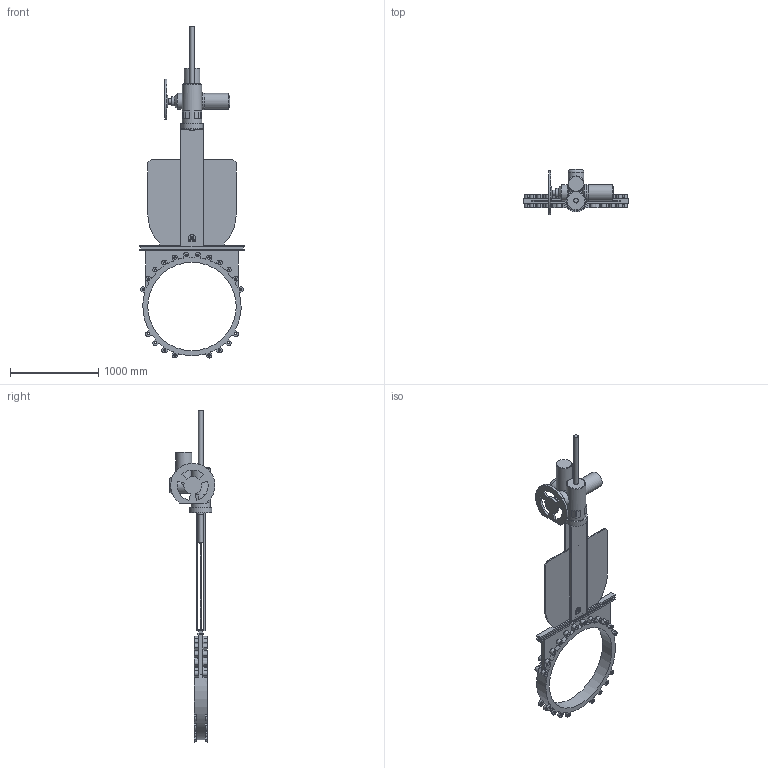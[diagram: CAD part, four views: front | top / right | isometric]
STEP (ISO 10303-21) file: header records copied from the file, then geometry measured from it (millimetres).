
FILE_DESCRIPTION(('STEP AP203'), '1');
FILE_NAME('K51GVA_DN1000+MT903.A 100', '', ('UNSPECIFIED'), ('UNSPECIFIED'), 'ASCON STEP Converter 1.6', 'ASCON Math Kernel', '');
FILE_SCHEMA(('CONFIG_CONTROL_DESIGN'));
Length unit declared in the file: millimetre
Bounding box: 1190 x 516.46 x 3755.23 mm (x, y, z)
Volume: 110354288.1 mm3; surface area: 7622844.5 mm2
Topology: 1 solids, 2 shells, 497 faces, 1359 edges, 891 vertices
Faces by surface type: plane 238, cylinder 216, cone 42, torus 1
Full cylindrical faces by diameter (mm): 13.835 x8, 18 x8, 26.211 x16, 29.211 x24, 52 x2, 60 x1, 80 x1, 100 x1, 140 x2, 180 x4, 187 x1, 191 x1, 220 x1, 250 x1, 1000 x1, 1112 x1
Entity records: 20102 total; most frequent: CARTESIAN_POINT 3634, DIRECTION 2720, ORIENTED_EDGE 2422, EDGE_CURVE 1211, AXIS2_PLACEMENT_3D 1034, VERTEX_POINT 858, EDGE_LOOP 677, LINE 652
